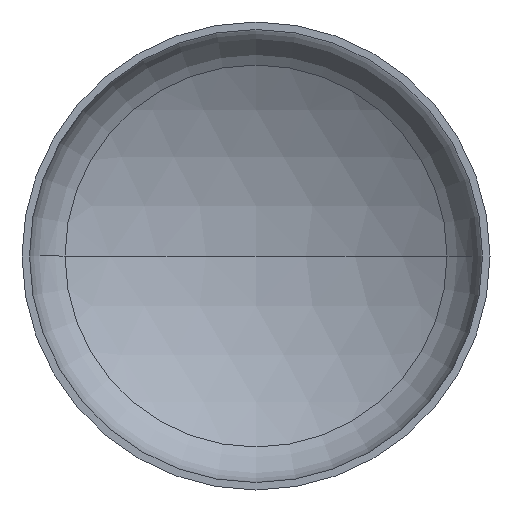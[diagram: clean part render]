
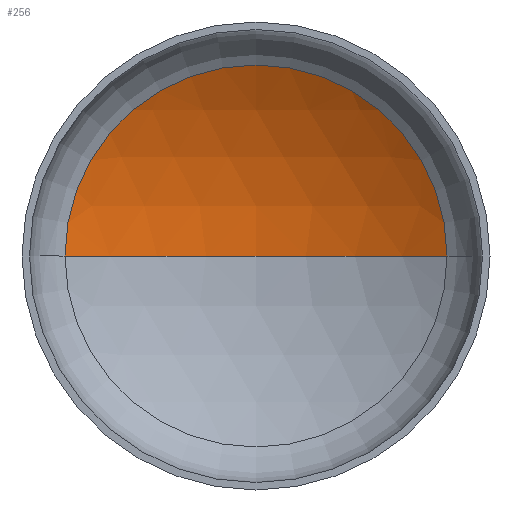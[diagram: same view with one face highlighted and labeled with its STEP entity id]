
A CAD part, front view. The second image highlights one B-rep face of the part: STEP entity #256.
In plain terms, the highlighted spherical face has radius 1600 mm.
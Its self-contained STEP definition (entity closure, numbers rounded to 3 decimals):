
#17 = EDGE_LOOP ( 'NONE', ( #212, #91, #40 ) ) ;
#30 = AXIS2_PLACEMENT_3D ( 'NONE', #233, #178, #81 ) ;
#31 = VERTEX_POINT ( 'NONE', #282 ) ;
#34 = DIRECTION ( 'NONE',  ( 0., -1., 0. ) ) ;
#40 = ORIENTED_EDGE ( 'NONE', *, *, #132, .T. ) ;
#42 = CARTESIAN_POINT ( 'NONE',  ( 0., 366.64, 0. ) ) ;
#48 = AXIS2_PLACEMENT_3D ( 'NONE', #248, #247, #270 ) ;
#51 = AXIS2_PLACEMENT_3D ( 'NONE', #149, #313, #189 ) ;
#52 = AXIS2_PLACEMENT_3D ( 'NONE', #42, #34, #383 ) ;
#75 = VERTEX_POINT ( 'NONE', #286 ) ;
#76 = CIRCLE ( 'NONE', #51, 1600. ) ;
#81 = DIRECTION ( 'NONE',  ( -1., 0., 0. ) ) ;
#91 = ORIENTED_EDGE ( 'NONE', *, *, #152, .T. ) ;
#132 = EDGE_CURVE ( 'NONE', #31, #75, #187, .T. ) ;
#137 = VERTEX_POINT ( 'NONE', #363 ) ;
#149 = CARTESIAN_POINT ( 'NONE',  ( 0., -1009.566, 0. ) ) ;
#152 = EDGE_CURVE ( 'NONE', #137, #31, #76, .T. ) ;
#163 = EDGE_CURVE ( 'NONE', #137, #75, #176, .T. ) ;
#176 = CIRCLE ( 'NONE', #48, 1600. ) ;
#178 = DIRECTION ( 'NONE',  ( 0., 0., -1. ) ) ;
#187 = CIRCLE ( 'NONE', #52, 816.124 ) ;
#189 = DIRECTION ( 'NONE',  ( -1., 0., 0. ) ) ;
#212 = ORIENTED_EDGE ( 'NONE', *, *, #163, .F. ) ;
#229 = FACE_OUTER_BOUND ( 'NONE', #17, .T. ) ;
#233 = CARTESIAN_POINT ( 'NONE',  ( 0., -1009.566, 0. ) ) ;
#247 = DIRECTION ( 'NONE',  ( 0., 0., 1. ) ) ;
#248 = CARTESIAN_POINT ( 'NONE',  ( 0., -1009.566, 0. ) ) ;
#256 = ADVANCED_FACE ( 'NONE', ( #229 ), #410, .F. ) ;
#270 = DIRECTION ( 'NONE',  ( 1., 0., 0. ) ) ;
#282 = CARTESIAN_POINT ( 'NONE',  ( 816.124, 366.64, 0. ) ) ;
#286 = CARTESIAN_POINT ( 'NONE',  ( -816.124, 366.64, 0. ) ) ;
#313 = DIRECTION ( 'NONE',  ( 0., 0., -1. ) ) ;
#363 = CARTESIAN_POINT ( 'NONE',  ( 0., 590.434, 0. ) ) ;
#383 = DIRECTION ( 'NONE',  ( 1., 0., 0. ) ) ;
#410 = SPHERICAL_SURFACE ( 'NONE', #30, 1600. ) ;
